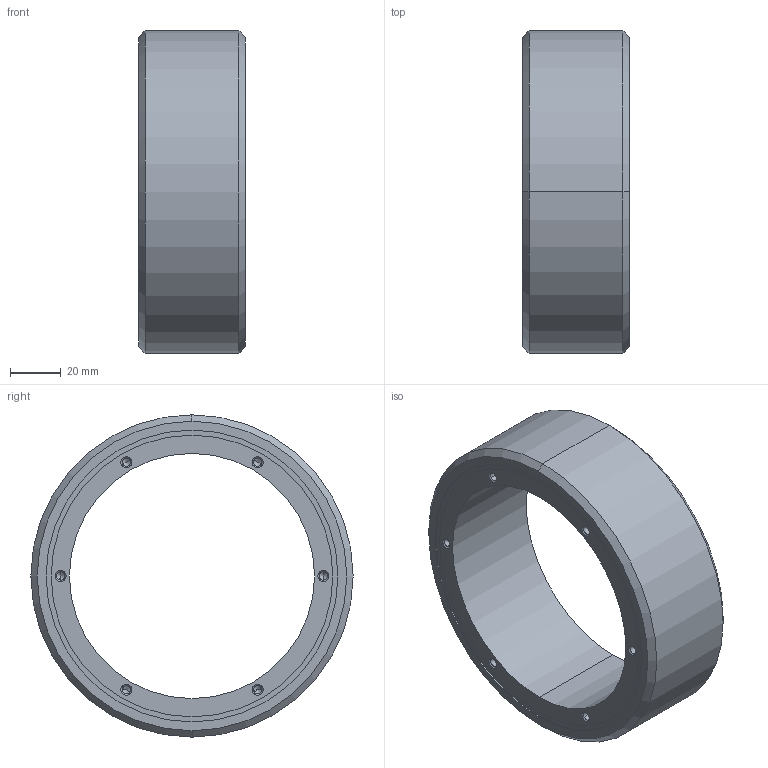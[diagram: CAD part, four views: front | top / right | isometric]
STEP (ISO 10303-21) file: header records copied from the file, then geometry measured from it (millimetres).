
FILE_DESCRIPTION (( 'STEP AP203' ), '1' );
FILE_NAME ('12036305180103.STEP', '2026-03-10T07:44:03', ( '20241006' ), ( '' ), 'SwSTEP 2.0', 'SolidWorks 2021', '' );
FILE_SCHEMA (( 'CONFIG_CONTROL_DESIGN' ));
Length unit declared in the file: millimetre
Products named in the file (1): 12036305180103
Bounding box: 42 x 127 x 127 mm (x, y, z)
Volume: 217937 mm3; surface area: 68503.9 mm2
Topology: 2 solids, 2 shells, 94 faces, 212 edges, 112 vertices
Faces by surface type: cone 52, cylinder 36, plane 6
Entity records: 2515 total; most frequent: DIRECTION 478, CARTESIAN_POINT 395, ORIENTED_EDGE 376, AXIS2_PLACEMENT_3D 195, EDGE_CURVE 188, VERTEX_POINT 112, EDGE_LOOP 112, CIRCLE 100
